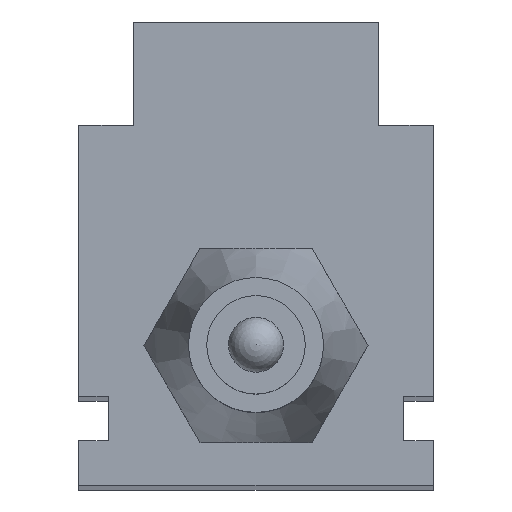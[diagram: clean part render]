
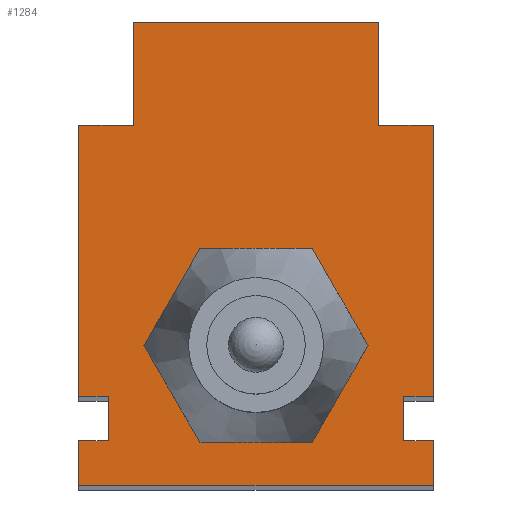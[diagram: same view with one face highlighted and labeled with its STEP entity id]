
A CAD part, top view. The second image highlights one B-rep face of the part: STEP entity #1284.
In plain terms, the highlighted planar face has unit normal (0, 0, 1).
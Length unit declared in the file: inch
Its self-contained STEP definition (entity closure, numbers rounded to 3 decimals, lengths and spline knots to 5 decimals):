
#40=FACE_BOUND('',#164,.T.);
#61=CIRCLE('',#1375,0.178);
#85=FACE_OUTER_BOUND('',#163,.T.);
#163=EDGE_LOOP('',(#853,#854,#855,#856,#857,#858,#859,#860,#861,#862,#863,
#864,#865,#866,#867,#868));
#164=EDGE_LOOP('',(#869));
#269=LINE('',#1824,#410);
#270=LINE('',#1827,#411);
#272=LINE('',#1831,#413);
#275=LINE('',#1837,#416);
#276=LINE('',#1839,#417);
#277=LINE('',#1841,#418);
#278=LINE('',#1843,#419);
#279=LINE('',#1845,#420);
#280=LINE('',#1847,#421);
#281=LINE('',#1849,#422);
#282=LINE('',#1851,#423);
#283=LINE('',#1853,#424);
#284=LINE('',#1855,#425);
#285=LINE('',#1857,#426);
#286=LINE('',#1859,#427);
#287=LINE('',#1860,#428);
#410=VECTOR('',#1489,0.3937);
#411=VECTOR('',#1492,0.3937);
#413=VECTOR('',#1496,0.3937);
#416=VECTOR('',#1501,0.3937);
#417=VECTOR('',#1502,0.3937);
#418=VECTOR('',#1503,0.3937);
#419=VECTOR('',#1504,0.3937);
#420=VECTOR('',#1505,0.3937);
#421=VECTOR('',#1506,0.3937);
#422=VECTOR('',#1507,0.3937);
#423=VECTOR('',#1508,0.3937);
#424=VECTOR('',#1509,0.3937);
#425=VECTOR('',#1510,0.3937);
#426=VECTOR('',#1511,0.3937);
#427=VECTOR('',#1512,0.3937);
#428=VECTOR('',#1513,0.3937);
#545=VERTEX_POINT('',#1819);
#546=VERTEX_POINT('',#1822);
#547=VERTEX_POINT('',#1826);
#548=VERTEX_POINT('',#1830);
#550=VERTEX_POINT('',#1836);
#551=VERTEX_POINT('',#1838);
#552=VERTEX_POINT('',#1840);
#553=VERTEX_POINT('',#1842);
#554=VERTEX_POINT('',#1844);
#555=VERTEX_POINT('',#1846);
#556=VERTEX_POINT('',#1848);
#557=VERTEX_POINT('',#1850);
#558=VERTEX_POINT('',#1852);
#559=VERTEX_POINT('',#1854);
#560=VERTEX_POINT('',#1856);
#561=VERTEX_POINT('',#1858);
#562=VERTEX_POINT('',#1861);
#668=EDGE_CURVE('',#545,#546,#269,.T.);
#669=EDGE_CURVE('',#546,#547,#270,.T.);
#671=EDGE_CURVE('',#545,#548,#272,.T.);
#674=EDGE_CURVE('',#550,#547,#275,.T.);
#675=EDGE_CURVE('',#550,#551,#276,.T.);
#676=EDGE_CURVE('',#551,#552,#277,.T.);
#677=EDGE_CURVE('',#553,#552,#278,.T.);
#678=EDGE_CURVE('',#554,#553,#279,.T.);
#679=EDGE_CURVE('',#555,#554,#280,.T.);
#680=EDGE_CURVE('',#556,#555,#281,.T.);
#681=EDGE_CURVE('',#557,#556,#282,.T.);
#682=EDGE_CURVE('',#558,#557,#283,.T.);
#683=EDGE_CURVE('',#559,#558,#284,.T.);
#684=EDGE_CURVE('',#560,#559,#285,.T.);
#685=EDGE_CURVE('',#561,#560,#286,.T.);
#686=EDGE_CURVE('',#548,#561,#287,.T.);
#687=EDGE_CURVE('',#562,#562,#61,.T.);
#853=ORIENTED_EDGE('',*,*,#668,.T.);
#854=ORIENTED_EDGE('',*,*,#669,.T.);
#855=ORIENTED_EDGE('',*,*,#674,.F.);
#856=ORIENTED_EDGE('',*,*,#675,.T.);
#857=ORIENTED_EDGE('',*,*,#676,.T.);
#858=ORIENTED_EDGE('',*,*,#677,.F.);
#859=ORIENTED_EDGE('',*,*,#678,.F.);
#860=ORIENTED_EDGE('',*,*,#679,.F.);
#861=ORIENTED_EDGE('',*,*,#680,.F.);
#862=ORIENTED_EDGE('',*,*,#681,.F.);
#863=ORIENTED_EDGE('',*,*,#682,.F.);
#864=ORIENTED_EDGE('',*,*,#683,.F.);
#865=ORIENTED_EDGE('',*,*,#684,.F.);
#866=ORIENTED_EDGE('',*,*,#685,.F.);
#867=ORIENTED_EDGE('',*,*,#686,.F.);
#868=ORIENTED_EDGE('',*,*,#671,.F.);
#869=ORIENTED_EDGE('',*,*,#687,.T.);
#1165=PLANE('',#1374);
#1284=ADVANCED_FACE('',(#85,#40),#1165,.T.);
#1374=AXIS2_PLACEMENT_3D('',#1835,#1499,#1500);
#1375=AXIS2_PLACEMENT_3D('',#1862,#1514,#1515);
#1489=DIRECTION('',(-1.,0.,0.));
#1492=DIRECTION('',(0.,1.,0.));
#1496=DIRECTION('',(0.,-1.,0.));
#1499=DIRECTION('center_axis',(0.,0.,1.));
#1500=DIRECTION('ref_axis',(1.,0.,0.));
#1501=DIRECTION('',(1.,0.,0.));
#1502=DIRECTION('',(0.,-1.,0.));
#1503=DIRECTION('',(-1.,0.,0.));
#1504=DIRECTION('',(0.,1.,0.));
#1505=DIRECTION('',(-1.,0.,0.));
#1506=DIRECTION('',(0.,1.,0.));
#1507=DIRECTION('',(1.,0.,0.));
#1508=DIRECTION('',(0.,1.,0.));
#1509=DIRECTION('',(-1.,0.,0.));
#1510=DIRECTION('',(0.,-1.,0.));
#1511=DIRECTION('',(1.,0.,0.));
#1512=DIRECTION('',(0.,-1.,0.));
#1513=DIRECTION('',(-1.,0.,0.));
#1514=DIRECTION('center_axis',(0.,0.,-1.));
#1515=DIRECTION('ref_axis',(1.,0.,0.));
#1819=CARTESIAN_POINT('',(0.35998,0.4564,-6.35197));
#1822=CARTESIAN_POINT('',(0.24877,0.4564,-6.35197));
#1824=CARTESIAN_POINT('',(0.12438,0.4564,-6.35197));
#1826=CARTESIAN_POINT('',(0.24877,0.6664,-6.35197));
#1827=CARTESIAN_POINT('',(0.24877,0.42011,-6.35197));
#1830=CARTESIAN_POINT('',(0.35998,-0.0936,-6.35197));
#1831=CARTESIAN_POINT('',(0.35998,0.6664,-6.35197));
#1835=CARTESIAN_POINT('Origin',(-0.00002,0.17382,
-6.35197));
#1836=CARTESIAN_POINT('',(-0.24877,0.6664,-6.35197));
#1837=CARTESIAN_POINT('',(-0.36002,0.6664,-6.35197));
#1838=CARTESIAN_POINT('',(-0.24877,0.4564,-6.35197));
#1839=CARTESIAN_POINT('',(-0.24877,0.42011,-6.35197));
#1840=CARTESIAN_POINT('',(-0.36002,0.4564,-6.35197));
#1841=CARTESIAN_POINT('',(-0.1244,0.4564,-6.35197));
#1842=CARTESIAN_POINT('',(-0.36002,-0.0936,-6.35197));
#1843=CARTESIAN_POINT('',(-0.36002,-0.0936,-6.35197));
#1844=CARTESIAN_POINT('',(-0.30002,-0.0936,-6.35197));
#1845=CARTESIAN_POINT('',(-0.30002,-0.0936,-6.35197));
#1846=CARTESIAN_POINT('',(-0.30002,-0.1836,-6.35197));
#1847=CARTESIAN_POINT('',(-0.30002,-0.1836,-6.35197));
#1848=CARTESIAN_POINT('',(-0.36002,-0.1836,-6.35197));
#1849=CARTESIAN_POINT('',(-0.36002,-0.1836,-6.35197));
#1850=CARTESIAN_POINT('',(-0.36002,-0.2736,-6.35197));
#1851=CARTESIAN_POINT('',(-0.36002,-0.2736,-6.35197));
#1852=CARTESIAN_POINT('',(0.35998,-0.2736,-6.35197));
#1853=CARTESIAN_POINT('',(0.35998,-0.2736,-6.35197));
#1854=CARTESIAN_POINT('',(0.35998,-0.1836,-6.35197));
#1855=CARTESIAN_POINT('',(0.35998,0.6664,-6.35197));
#1856=CARTESIAN_POINT('',(0.29998,-0.1836,-6.35197));
#1857=CARTESIAN_POINT('',(0.29998,-0.1836,-6.35197));
#1858=CARTESIAN_POINT('',(0.29998,-0.0936,-6.35197));
#1859=CARTESIAN_POINT('',(0.29998,-0.0936,-6.35197));
#1860=CARTESIAN_POINT('',(0.35998,-0.0936,-6.35197));
#1861=CARTESIAN_POINT('',(-0.178,0.,-6.35197));
#1862=CARTESIAN_POINT('Origin',(0.,0.,-6.35197));
